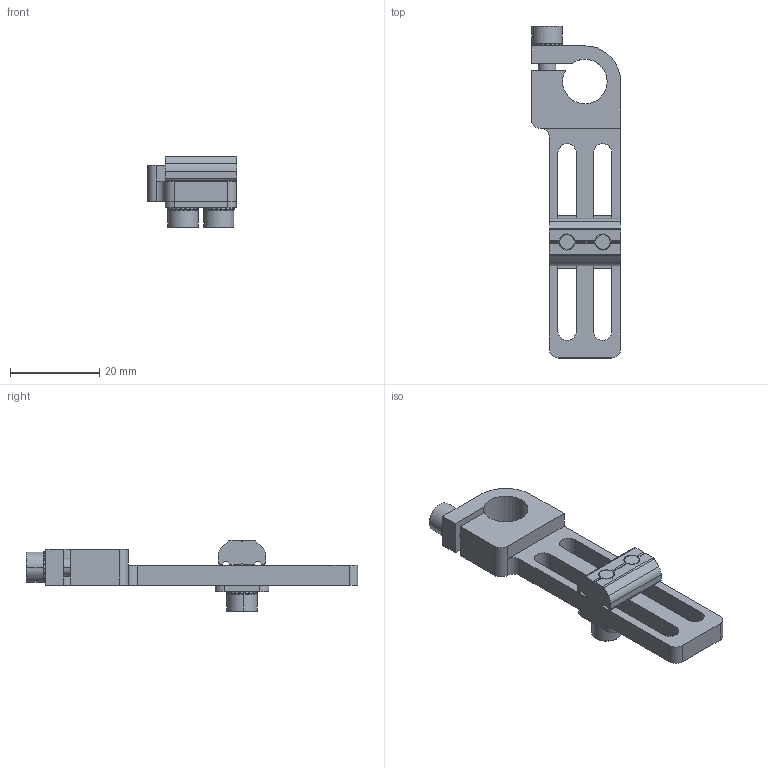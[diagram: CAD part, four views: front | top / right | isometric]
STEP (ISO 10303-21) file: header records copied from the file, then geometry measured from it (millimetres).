
FILE_DESCRIPTION (( 'STEP AP214' ), '1' );
FILE_NAME ('SMBE1-1040T.STEP', '2022-12-14T02:14:57', ( '' ), ( '' ), 'SwSTEP 2.0', 'SolidWorks 2018', '' );
FILE_SCHEMA (( 'AUTOMOTIVE_DESIGN' ));
Length unit declared in the file: millimetre
Products named in the file (1): SMBE1-1040T
Bounding box: 20 x 74.45 x 16 mm (x, y, z)
Volume: 5852.6 mm3; surface area: 6303.1 mm2
Topology: 11 solids, 11 shells, 977 faces, 2867 edges, 1905 vertices
Faces by surface type: plane 881, cylinder 78, cone 18
Entity records: 43726 total; most frequent: CARTESIAN_POINT 5942, DIRECTION 5757, ORIENTED_EDGE 5734, EDGE_CURVE 2867, AXIS2_PLACEMENT_3D 1944, VERTEX_POINT 1905, VECTOR 1869, LINE 1869
